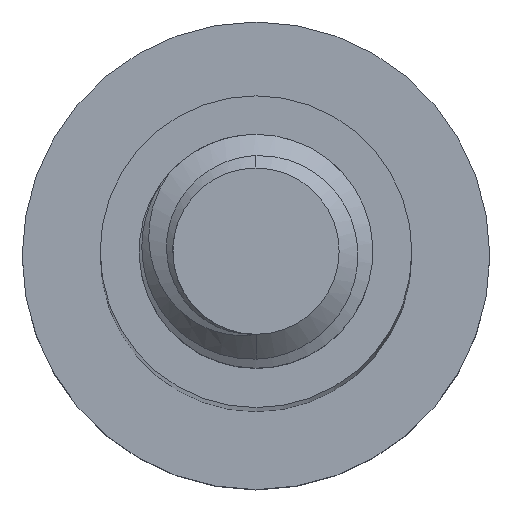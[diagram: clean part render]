
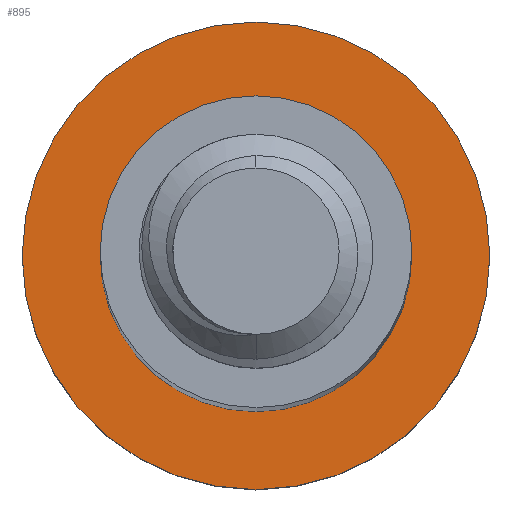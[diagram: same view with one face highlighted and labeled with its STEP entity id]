
A CAD part, top view. The second image highlights one B-rep face of the part: STEP entity #895.
In plain terms, the highlighted planar face has unit normal (0, 0, 1).
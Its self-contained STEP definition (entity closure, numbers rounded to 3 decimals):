
#1 = CARTESIAN_POINT ( 'NONE',  ( -2., 0., -30. ) ) ;
#17 = DIRECTION ( 'NONE',  ( -1., 0., 0. ) ) ;
#138 = ORIENTED_EDGE ( 'NONE', *, *, #2092, .F. ) ;
#151 = FACE_BOUND ( 'NONE', #2099, .T. ) ;
#261 = AXIS2_PLACEMENT_3D ( 'NONE', #1345, #2027, #1820 ) ;
#285 = VERTEX_POINT ( 'NONE', #579 ) ;
#334 = AXIS2_PLACEMENT_3D ( 'NONE', #576, #2088, #17 ) ;
#336 = CIRCLE ( 'NONE', #804, 2. ) ;
#344 = CARTESIAN_POINT ( 'NONE',  ( 0., 0., -30. ) ) ;
#412 = CIRCLE ( 'NONE', #776, 3. ) ;
#472 = CARTESIAN_POINT ( 'NONE',  ( 2., 0., -30. ) ) ;
#576 = CARTESIAN_POINT ( 'NONE',  ( 0., 0., -30. ) ) ;
#579 = CARTESIAN_POINT ( 'NONE',  ( -3., 0., -30. ) ) ;
#701 = ORIENTED_EDGE ( 'NONE', *, *, #1323, .T. ) ;
#723 = EDGE_CURVE ( 'NONE', #285, #732, #1057, .T. ) ;
#724 = VERTEX_POINT ( 'NONE', #1 ) ;
#732 = VERTEX_POINT ( 'NONE', #1178 ) ;
#776 = AXIS2_PLACEMENT_3D ( 'NONE', #1123, #1140, #1962 ) ;
#804 = AXIS2_PLACEMENT_3D ( 'NONE', #344, #1545, #1557 ) ;
#842 = DIRECTION ( 'NONE',  ( -1., 0., 0. ) ) ;
#894 = ORIENTED_EDGE ( 'NONE', *, *, #723, .F. ) ;
#895 = ADVANCED_FACE ( 'NONE', ( #151, #1525 ), #1367, .F. ) ;
#1018 = AXIS2_PLACEMENT_3D ( 'NONE', #1342, #1312, #842 ) ;
#1050 = EDGE_LOOP ( 'NONE', ( #138, #894 ) ) ;
#1057 = CIRCLE ( 'NONE', #334, 3. ) ;
#1123 = CARTESIAN_POINT ( 'NONE',  ( 0., 0., -30. ) ) ;
#1140 = DIRECTION ( 'NONE',  ( 0., 0., -1. ) ) ;
#1178 = CARTESIAN_POINT ( 'NONE',  ( 3., 0., -30. ) ) ;
#1270 = VERTEX_POINT ( 'NONE', #472 ) ;
#1312 = DIRECTION ( 'NONE',  ( 0., 0., -1. ) ) ;
#1323 = EDGE_CURVE ( 'NONE', #1270, #724, #2025, .T. ) ;
#1342 = CARTESIAN_POINT ( 'NONE',  ( 0., 0., -30. ) ) ;
#1345 = CARTESIAN_POINT ( 'NONE',  ( 0., 0., -30. ) ) ;
#1367 = PLANE ( 'NONE',  #261 ) ;
#1469 = EDGE_CURVE ( 'NONE', #724, #1270, #336, .T. ) ;
#1525 = FACE_OUTER_BOUND ( 'NONE', #1050, .T. ) ;
#1545 = DIRECTION ( 'NONE',  ( 0., 0., -1. ) ) ;
#1557 = DIRECTION ( 'NONE',  ( -1., 0., 0. ) ) ;
#1820 = DIRECTION ( 'NONE',  ( -1., 0., 0. ) ) ;
#1962 = DIRECTION ( 'NONE',  ( -1., 0., 0. ) ) ;
#2025 = CIRCLE ( 'NONE', #1018, 2. ) ;
#2027 = DIRECTION ( 'NONE',  ( 0., 0., -1. ) ) ;
#2088 = DIRECTION ( 'NONE',  ( 0., 0., -1. ) ) ;
#2092 = EDGE_CURVE ( 'NONE', #732, #285, #412, .T. ) ;
#2099 = EDGE_LOOP ( 'NONE', ( #2172, #701 ) ) ;
#2172 = ORIENTED_EDGE ( 'NONE', *, *, #1469, .T. ) ;
